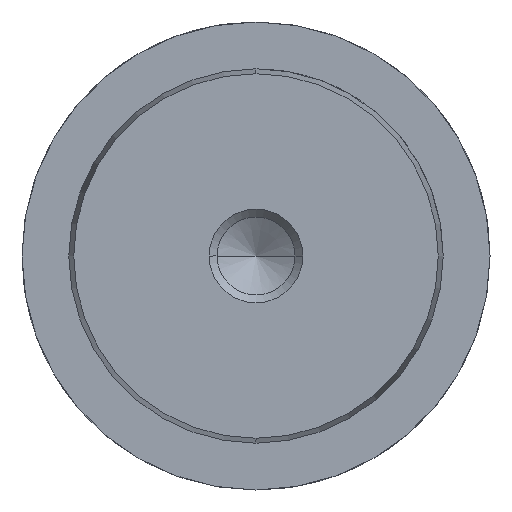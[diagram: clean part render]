
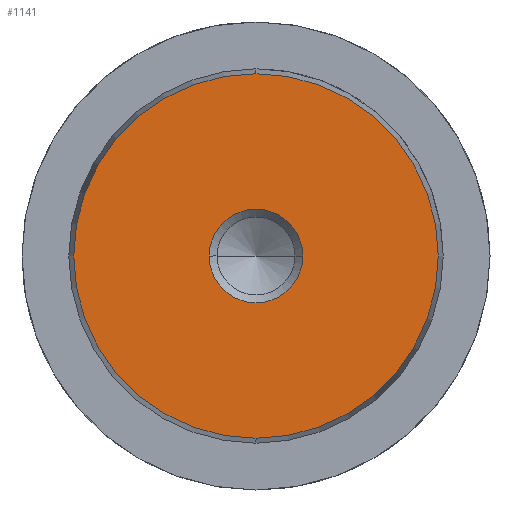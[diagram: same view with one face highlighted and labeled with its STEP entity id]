
A CAD part, left-side view. The second image highlights one B-rep face of the part: STEP entity #1141.
In plain terms, the highlighted planar face has unit normal (-1, 0, 0).
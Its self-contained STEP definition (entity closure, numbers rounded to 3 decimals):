
#1055=CARTESIAN_POINT('Vertex',(0.,0.,-15.578)) ;
#1058=CARTESIAN_POINT('Axis2P3D Location',(0.,0.,0.)) ;
#1062=CARTESIAN_POINT('Vertex',(0.,15.578,0.)) ;
#1065=CARTESIAN_POINT('Axis2P3D Location',(0.,0.,0.)) ;
#1069=CARTESIAN_POINT('Vertex',(0.,0.,15.578)) ;
#1091=CARTESIAN_POINT('Axis2P3D Location',(0.,0.,0.)) ;
#1095=CARTESIAN_POINT('Vertex',(0.,-15.578,0.)) ;
#1098=CARTESIAN_POINT('Axis2P3D Location',(0.,0.,0.)) ;
#1112=CARTESIAN_POINT('Axis2P3D Location',(0.,0.,0.)) ;
#1123=CARTESIAN_POINT('Axis2P3D Location',(0.,0.,0.)) ;
#1127=CARTESIAN_POINT('Vertex',(0.,4.,0.)) ;
#1129=CARTESIAN_POINT('Vertex',(0.,-4.,0.)) ;
#1132=CARTESIAN_POINT('Axis2P3D Location',(0.,0.,0.)) ;
#1059=DIRECTION('Axis2P3D Direction',(1.,-0.,0.)) ;
#1066=DIRECTION('Axis2P3D Direction',(1.,-0.,0.)) ;
#1092=DIRECTION('Axis2P3D Direction',(1.,0.,-0.)) ;
#1099=DIRECTION('Axis2P3D Direction',(1.,0.,-0.)) ;
#1113=DIRECTION('Axis2P3D Direction',(1.,0.,-0.)) ;
#1114=DIRECTION('Axis2P3D XDirection',(-0.,0.,-1.)) ;
#1124=DIRECTION('Axis2P3D Direction',(1.,0.,-0.)) ;
#1133=DIRECTION('Axis2P3D Direction',(1.,0.,-0.)) ;
#1060=AXIS2_PLACEMENT_3D('Circle Axis2P3D',#1058,#1059,$) ;
#1067=AXIS2_PLACEMENT_3D('Circle Axis2P3D',#1065,#1066,$) ;
#1093=AXIS2_PLACEMENT_3D('Circle Axis2P3D',#1091,#1092,$) ;
#1100=AXIS2_PLACEMENT_3D('Circle Axis2P3D',#1098,#1099,$) ;
#1115=AXIS2_PLACEMENT_3D('Plane Axis2P3D',#1112,#1113,#1114) ;
#1125=AXIS2_PLACEMENT_3D('Circle Axis2P3D',#1123,#1124,$) ;
#1134=AXIS2_PLACEMENT_3D('Circle Axis2P3D',#1132,#1133,$) ;
#1118=ORIENTED_EDGE('',*,*,#1064,.F.) ;
#1119=ORIENTED_EDGE('',*,*,#1102,.F.) ;
#1120=ORIENTED_EDGE('',*,*,#1097,.F.) ;
#1121=ORIENTED_EDGE('',*,*,#1071,.F.) ;
#1138=ORIENTED_EDGE('',*,*,#1131,.T.) ;
#1139=ORIENTED_EDGE('',*,*,#1136,.T.) ;
#1140=FACE_BOUND('',#1137,.T.) ;
#1141=ADVANCED_FACE('719-32x200',(#1122,#1140),#1116,.F.) ;
#1061=CIRCLE('generated circle',#1060,15.578) ;
#1068=CIRCLE('generated circle',#1067,15.578) ;
#1094=CIRCLE('generated circle',#1093,15.578) ;
#1101=CIRCLE('generated circle',#1100,15.578) ;
#1126=CIRCLE('generated circle',#1125,4.) ;
#1135=CIRCLE('generated circle',#1134,4.) ;
#1064=EDGE_CURVE('',#1056,#1063,#1061,.T.) ;
#1071=EDGE_CURVE('',#1063,#1070,#1068,.T.) ;
#1097=EDGE_CURVE('',#1070,#1096,#1094,.T.) ;
#1102=EDGE_CURVE('',#1096,#1056,#1101,.T.) ;
#1131=EDGE_CURVE('',#1128,#1130,#1126,.T.) ;
#1136=EDGE_CURVE('',#1130,#1128,#1135,.T.) ;
#1117=EDGE_LOOP('',(#1118,#1119,#1120,#1121)) ;
#1137=EDGE_LOOP('',(#1138,#1139)) ;
#1122=FACE_OUTER_BOUND('',#1117,.T.) ;
#1116=PLANE('Plane',#1115) ;
#1056=VERTEX_POINT('',#1055) ;
#1063=VERTEX_POINT('',#1062) ;
#1070=VERTEX_POINT('',#1069) ;
#1096=VERTEX_POINT('',#1095) ;
#1128=VERTEX_POINT('',#1127) ;
#1130=VERTEX_POINT('',#1129) ;
